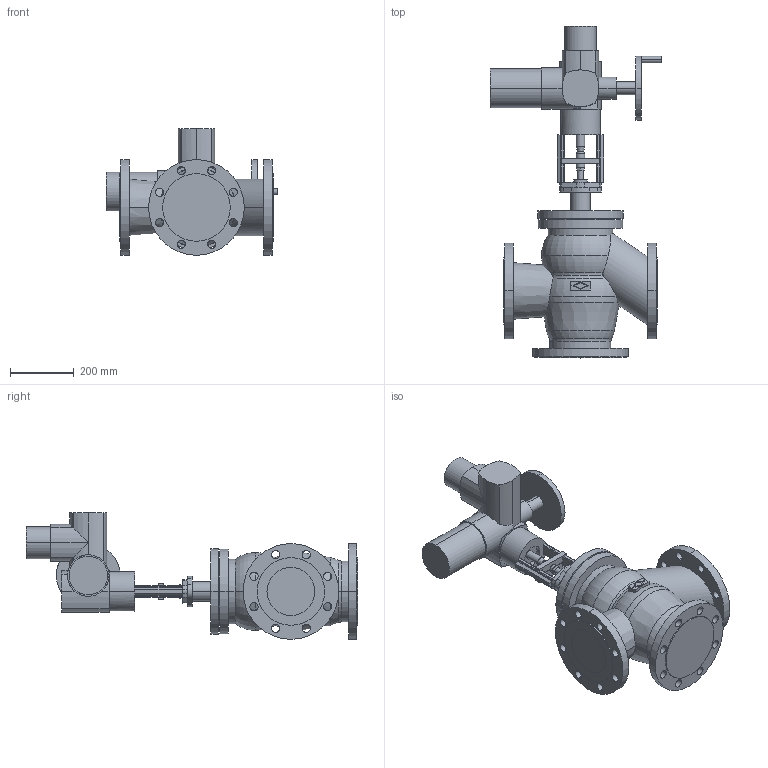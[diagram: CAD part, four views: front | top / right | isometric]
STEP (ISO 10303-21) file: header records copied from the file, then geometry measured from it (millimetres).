
FILE_DESCRIPTION(('OneSpaceDesigner STEP Export'),'2;1');
FILE_NAME('c000003186.stp','2007-01-24T11:16:29',(''),(''),'OneSpace Designer STEP processor for AP214 (Solid Model)','OneSpace Designer 14.00B 27-May-2006 (C) CoCreate Software GmbH','');
FILE_SCHEMA(('AUTOMOTIVE_DESIGN { 1 0 10303 214 1 1 1 1 }'));
Length unit declared in the file: millimetre
Products named in the file (2): 1; 2
Bounding box: 536 x 1040 x 397 mm (x, y, z)
Volume: 39909539.7 mm3; surface area: 1526924.8 mm2
Topology: 2 solids, 2 shells, 322 faces, 819 edges, 520 vertices
Faces by surface type: cylinder 164, plane 134, torus 16, cone 8
Entity records: 9284 total; most frequent: CARTESIAN_POINT 2068, ORIENTED_EDGE 1638, DIRECTION 1316, EDGE_CURVE 819, VERTEX_POINT 520, AXIS2_PLACEMENT_3D 460, EDGE_LOOP 401, VECTOR 396
